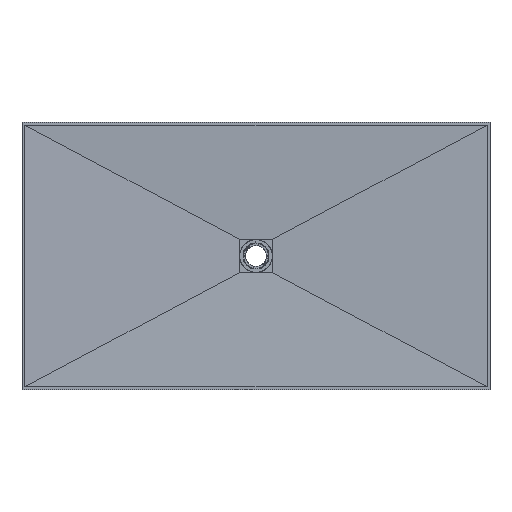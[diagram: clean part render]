
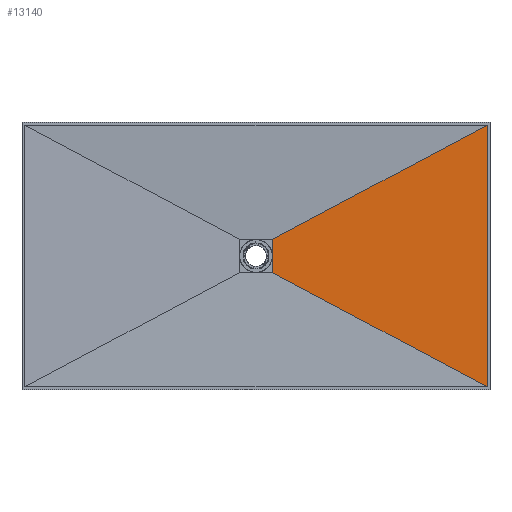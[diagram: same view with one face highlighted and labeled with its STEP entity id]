
A CAD part, top view. The second image highlights one B-rep face of the part: STEP entity #13140.
In plain terms, the highlighted planar face has unit normal (-0.028, 0, 1).
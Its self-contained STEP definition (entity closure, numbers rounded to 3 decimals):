
#2348=FACE_OUTER_BOUND('',#3093,.T.);
#3093=EDGE_LOOP('',(#8808,#8809,#8810,#8811));
#3902=LINE('',#18662,#4523);
#3908=LINE('',#18674,#4529);
#3910=LINE('',#18677,#4531);
#3911=LINE('',#18679,#4532);
#4523=VECTOR('',#15362,10.);
#4529=VECTOR('',#15370,10.);
#4531=VECTOR('',#15374,10.);
#4532=VECTOR('',#15377,10.);
#5139=VERTEX_POINT('',#18659);
#5140=VERTEX_POINT('',#18661);
#5143=VERTEX_POINT('',#18668);
#5145=VERTEX_POINT('',#18672);
#6605=EDGE_CURVE('',#5139,#5140,#3902,.F.);
#6611=EDGE_CURVE('',#5143,#5145,#3908,.F.);
#6613=EDGE_CURVE('',#5139,#5143,#3910,.T.);
#6614=EDGE_CURVE('',#5140,#5145,#3911,.T.);
#8808=ORIENTED_EDGE('',*,*,#6605,.F.);
#8809=ORIENTED_EDGE('',*,*,#6613,.T.);
#8810=ORIENTED_EDGE('',*,*,#6611,.T.);
#8811=ORIENTED_EDGE('',*,*,#6614,.F.);
#13070=PLANE('',#13978);
#13140=ADVANCED_FACE('',(#2348),#13070,.F.);
#13978=AXIS2_PLACEMENT_3D('',#18678,#15375,#15376);
#15362=DIRECTION('',(0.,1.,0.));
#15370=DIRECTION('',(0.,1.,0.));
#15374=DIRECTION('',(-0.882,-0.47,-0.025));
#15375=DIRECTION('center_axis',(0.028,0.,-1.));
#15376=DIRECTION('ref_axis',(-1.,0.,-0.028));
#15377=DIRECTION('',(-0.882,0.47,-0.025));
#18659=CARTESIAN_POINT('',(873.382,429.967,25.));
#18661=CARTESIAN_POINT('',(873.382,-763.767,25.));
#18662=CARTESIAN_POINT('',(873.382,131.25,25.));
#18668=CARTESIAN_POINT('',(-104.218,-90.433,-2.5));
#18672=CARTESIAN_POINT('',(-104.218,-243.367,-2.5));
#18674=CARTESIAN_POINT('',(-104.218,131.55,-2.5));
#18677=CARTESIAN_POINT('',(52.535,-6.99,1.909));
#18678=CARTESIAN_POINT('Origin',(873.365,430.,25.));
#18679=CARTESIAN_POINT('',(625.949,-632.052,18.04));
